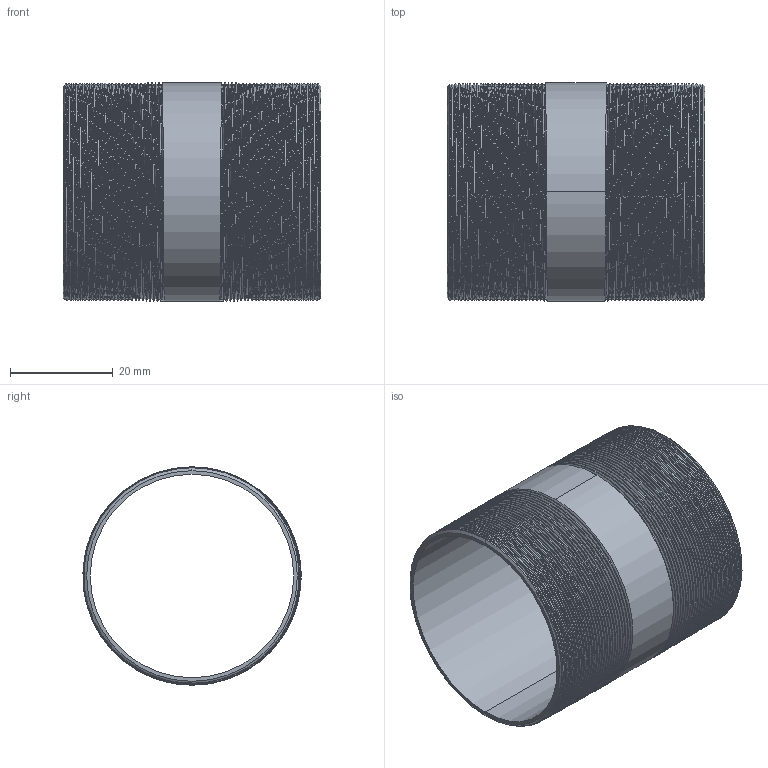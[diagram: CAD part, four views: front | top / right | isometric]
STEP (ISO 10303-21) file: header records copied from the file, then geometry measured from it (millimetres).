
FILE_DESCRIPTION (( 'STEP AP203' ), '1' );
FILE_NAME ('3D_R210_1 1-4x50_17148560.STEP', '2024-08-16T10:01:23', ( '' ), ( '' ), 'SwSTEP 2.0', 'SolidWorks 2024', '' );
FILE_SCHEMA (( 'CONFIG_CONTROL_DESIGN' ));
Length unit declared in the file: millimetre
Products named in the file (1): 3D_R210_1 1-4x50_17148560
Bounding box: 50 x 42.37 x 42.4 mm (x, y, z)
Volume: 7900.1 mm3; surface area: 15457.8 mm2
Topology: 1 solids, 1 shells, 128 faces, 370 edges, 244 vertices
Faces by surface type: cone 114, bspline 6, cylinder 4, plane 4
Entity records: 21255 total; most frequent: CARTESIAN_POINT 18295, ORIENTED_EDGE 740, DIRECTION 394, EDGE_CURVE 370, VERTEX_POINT 244, B_SPLINE_CURVE_WITH_KNOTS 226, AXIS2_PLACEMENT_3D 135, EDGE_LOOP 130
